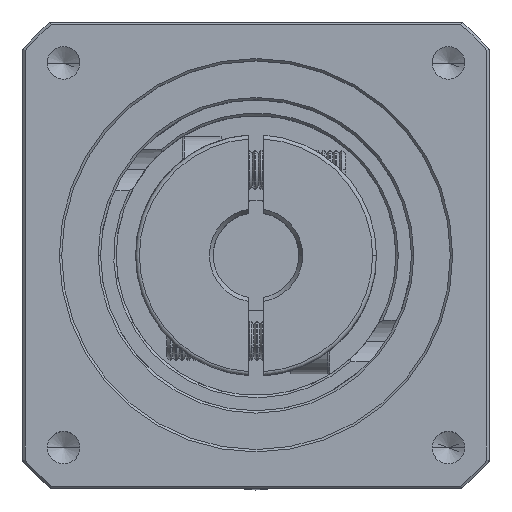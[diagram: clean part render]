
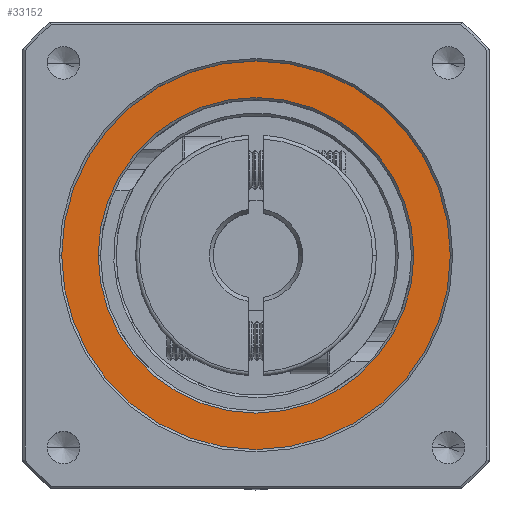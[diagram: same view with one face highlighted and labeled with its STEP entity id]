
A CAD part, top view. The second image highlights one B-rep face of the part: STEP entity #33152.
In plain terms, the highlighted planar face has unit normal (0, 0, 1).
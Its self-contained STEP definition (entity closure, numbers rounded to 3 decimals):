
#885 = DIRECTION ( 'NONE',  ( 0., 0., 1. ) ) ;
#1205 = DIRECTION ( 'NONE',  ( 1., 0., 0. ) ) ;
#3138 = DIRECTION ( 'NONE',  ( 0., 0., 1. ) ) ;
#8051 = AXIS2_PLACEMENT_3D ( 'NONE', #85113, #40090, #92687 ) ;
#9849 = EDGE_CURVE ( 'NONE', #94787, #67831, #60515, .T. ) ;
#16384 = CIRCLE ( 'NONE', #52776, 25. ) ;
#18234 = ORIENTED_EDGE ( 'NONE', *, *, #39358, .T. ) ;
#25797 = AXIS2_PLACEMENT_3D ( 'NONE', #32469, #85045, #40024 ) ;
#26621 = VERTEX_POINT ( 'NONE', #71997 ) ;
#29783 = ORIENTED_EDGE ( 'NONE', *, *, #92076, .T. ) ;
#32469 = CARTESIAN_POINT ( 'NONE',  ( -70.553, 17.545, 33.731 ) ) ;
#33152 = ADVANCED_FACE ( 'NONE', ( #53823, #33959 ), #92350, .T. ) ;
#33959 = FACE_OUTER_BOUND ( 'NONE', #48164, .T. ) ;
#36477 = AXIS2_PLACEMENT_3D ( 'NONE', #48147, #3138, #55659 ) ;
#39358 = EDGE_CURVE ( 'NONE', #67831, #94787, #16384, .T. ) ;
#39436 = EDGE_CURVE ( 'NONE', #95017, #26621, #97545, .T. ) ;
#40024 = DIRECTION ( 'NONE',  ( 1., 0., 0. ) ) ;
#40090 = DIRECTION ( 'NONE',  ( 0., 0., 1. ) ) ;
#42681 = ORIENTED_EDGE ( 'NONE', *, *, #9849, .T. ) ;
#45889 = CARTESIAN_POINT ( 'NONE',  ( -70.553, 17.545, 33.731 ) ) ;
#46210 = DIRECTION ( 'NONE',  ( 0., 0., -1. ) ) ;
#48147 = CARTESIAN_POINT ( 'NONE',  ( -70.553, 17.545, 33.731 ) ) ;
#48164 = EDGE_LOOP ( 'NONE', ( #18234, #42681 ) ) ;
#50834 = CARTESIAN_POINT ( 'NONE',  ( -50.253, 17.545, 33.731 ) ) ;
#52776 = AXIS2_PLACEMENT_3D ( 'NONE', #45889, #885, #53417 ) ;
#53417 = DIRECTION ( 'NONE',  ( 1., 0., 0. ) ) ;
#53823 = FACE_BOUND ( 'NONE', #93479, .T. ) ;
#55659 = DIRECTION ( 'NONE',  ( 1., 0., 0. ) ) ;
#60515 = CIRCLE ( 'NONE', #36477, 25. ) ;
#62665 = CARTESIAN_POINT ( 'NONE',  ( -95.553, 17.545, 33.731 ) ) ;
#64401 = CARTESIAN_POINT ( 'NONE',  ( -45.553, 17.545, 33.731 ) ) ;
#67831 = VERTEX_POINT ( 'NONE', #64401 ) ;
#71997 = CARTESIAN_POINT ( 'NONE',  ( -90.853, 17.545, 33.731 ) ) ;
#73888 = CIRCLE ( 'NONE', #93481, 20.3 ) ;
#74832 = ORIENTED_EDGE ( 'NONE', *, *, #39436, .T. ) ;
#85045 = DIRECTION ( 'NONE',  ( 0., 0., -1. ) ) ;
#85113 = CARTESIAN_POINT ( 'NONE',  ( -70.553, 17.545, 33.731 ) ) ;
#91319 = CARTESIAN_POINT ( 'NONE',  ( -70.553, 17.545, 33.731 ) ) ;
#92076 = EDGE_CURVE ( 'NONE', #26621, #95017, #73888, .T. ) ;
#92350 = PLANE ( 'NONE',  #8051 ) ;
#92687 = DIRECTION ( 'NONE',  ( 1., 0., 0. ) ) ;
#93479 = EDGE_LOOP ( 'NONE', ( #74832, #29783 ) ) ;
#93481 = AXIS2_PLACEMENT_3D ( 'NONE', #91319, #46210, #1205 ) ;
#94787 = VERTEX_POINT ( 'NONE', #62665 ) ;
#95017 = VERTEX_POINT ( 'NONE', #50834 ) ;
#97545 = CIRCLE ( 'NONE', #25797, 20.3 ) ;
